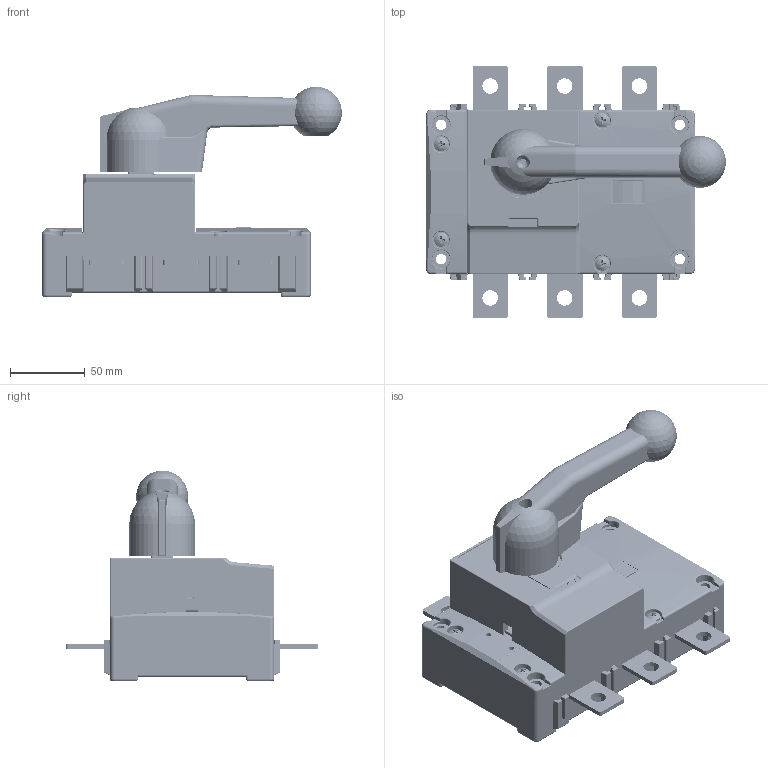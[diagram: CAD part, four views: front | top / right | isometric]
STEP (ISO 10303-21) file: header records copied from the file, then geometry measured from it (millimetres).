
FILE_DESCRIPTION((''),'2;1');
FILE_NAME('NH40_250_3_ASM','2025-03-21T',('zhuanghy'),(''),'CREO PARAMETRIC BY PTC INC, 2018070','CREO PARAMETRIC BY PTC INC, 2018070','');
FILE_SCHEMA(('AUTOMOTIVE_DESIGN { 1 0 10303 214 1 1 1 1 }'));
Products named in the file (24): PRODUCT_131798; ____GBT97_1__10_M5_1; _______GBT818__9_5XM5X30; PRODUCT_130062; __________GBT845__8XST4X14_F_20; PRODUCT_40175; _____GBT6170_M5; PRODUCT_107390; __________GBT845__8XST4X22_F_19; PRODUCT_58666; PRODUCT_91399; PRODUCT_67010; ____GBT97_1__9_M4_0_8_1_2_3; ________630_1_2_3; PRODUCT_44385; __7; __16; __14; PRODUCT_5696_ASM; PRODUCT_127596; PRODUCT_61178; NH40_250_3_1_ASM; NH40-200_250_202107_; NH40_250_3_ASM
Assembly tree (62 placements, depth 4):
  NH40_250_3_ASM
    NH40_250_3_1_ASM
      PRODUCT_131798
      ____GBT97_1__10_M5_1  x4
      _______GBT818__9_5XM5X30  x4
      PRODUCT_130062  x6
      __________GBT845__8XST4X14_F_20  x12
      PRODUCT_40175  x6
      _____GBT6170_M5  x4
      PRODUCT_107390
      __________GBT845__8XST4X22_F_19  x3
      PRODUCT_58666  x6
      PRODUCT_91399
      PRODUCT_67010
      ____GBT97_1__9_M4_0_8_1_2_3  x3
      ________630_1_2_3
      PRODUCT_44385
      PRODUCT_5696_ASM
        __7
        __16
        __14
      PRODUCT_127596
      PRODUCT_61178
    NH40-200_250_202107_
Bounding box: 200.87 x 169 x 141.2 mm (x, y, z)
Volume: 1198240.7 mm3; surface area: 266449.4 mm2
Topology: 60 solids, 60 shells, 4925 faces, 12829 edges, 7962 vertices
Faces by surface type: plane 1810, cylinder 1775, bspline 694, cone 241, sphere 207, torus 168, extrusion 30
Entity records: 158628 total; most frequent: CARTESIAN_POINT 80143, ORIENTED_EDGE 12946, DIRECTION 12413, EDGE_CURVE 6473, PRESENTATION_STYLE_ASSIGNMENT 4952, STYLED_ITEM 4664, CURVE_STYLE 4645, AXIS2_PLACEMENT_3D 4456
